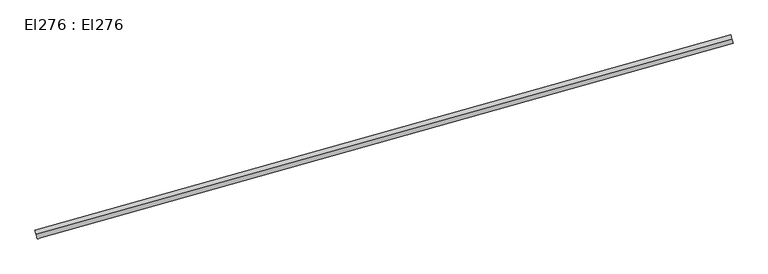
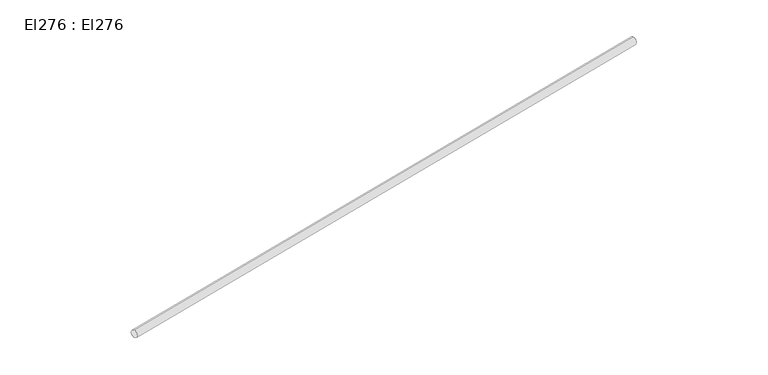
"""IFC4 building model written with IfcOpenShell, lengths in millimetres: cable carrier segment geometry, El276 : El276."""

from ifc_helpers import new_model, si_unit, point, frame, frame_2d, origin, place, context, project, spatial, circle_curve, trimmed, segment, composite_curve, outline, extrude, source, transform, mapped, element, save


def el276_el276_71697be8(model_context):
    return source(origin(), model_context, "Body", "SweptSolid", [
        extrude(outline(composite_curve([segment(trimmed(circle_curve(frame_2d((0.0, -9.5)), 9.5), [point((0.0, -19.0))], [point((0.0, 0.0))], False, "CARTESIAN"), True, "CONTINUOUS"), segment(trimmed(circle_curve(frame_2d((0.0, -9.5)), 9.5), [point((0.0, 0.0))], [point((0.0, -19.0))], False, "CARTESIAN"), True, "CONTINUOUS")], self_intersect=False)), frame((6338.0986915, 28679.6480124, 2959.5), z_axis=(0.9627666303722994, 0.27033389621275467, 0.0), x_axis=(-0.27033389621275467, 0.9627666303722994, 0.0)), (0.0, 0.0, 1.0), 1565.12),
    ])


if __name__ == "__main__":
    model = new_model("IFC4")
    model_context = context("Model", 3, world=origin())
    ifc_project = project(units=[si_unit("LENGTHUNIT", "METRE", prefix="MILLI")], contexts=[model_context])
    site = spatial("IfcSite", under=ifc_project)
    building = spatial("IfcBuilding", under=site)
    placement = place(None, origin())
    el276_el276_shape = el276_el276_71697be8(model_context)
    element("IfcCableCarrierSegment", 1, ObjectType="El276 : El276", at=placement, inside=building, context=model_context, shape_type="MappedRepresentation", body=[
        mapped(el276_el276_shape, transform((0.0, 0.0, 0.0), x_axis=(1.0, 0.0, 0.0), y_axis=(0.0, 1.0, 0.0), z_axis=(0.0, 0.0, 1.0))),
    ])
    save(model, "model.ifc")
